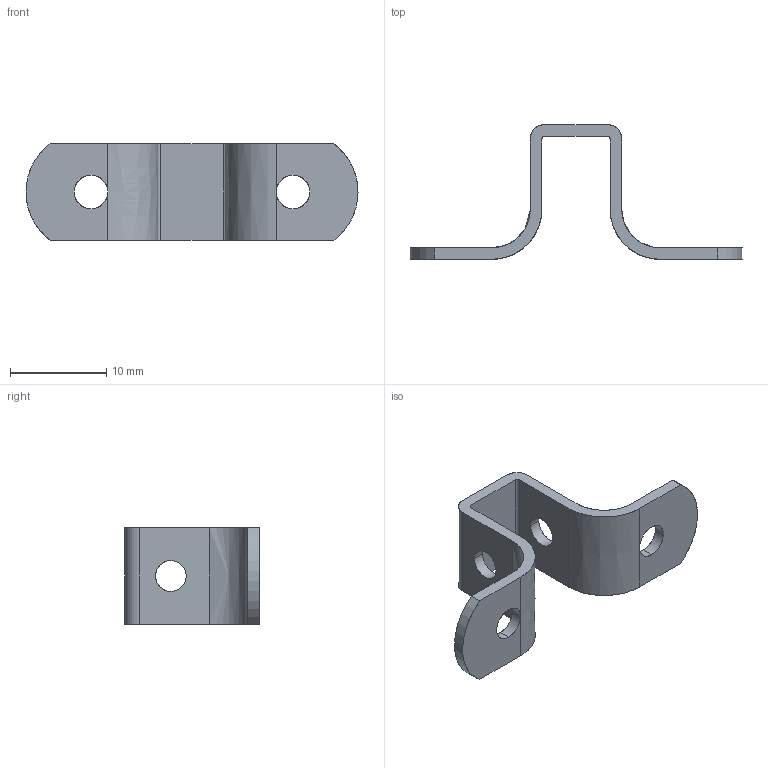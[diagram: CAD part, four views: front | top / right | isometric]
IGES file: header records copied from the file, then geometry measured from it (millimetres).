
Start section: SolidWorks IGES FILE using analytic representation for surfaces
Global section: file name: C:\WINNT\Profiles\cbrechard\Bureau\GE 571\534.020.00.IGS; native system: SolidWorks 2001Plus by SolidWorks Corporation; preprocessor: Version 5.3; author: CBRECHARD; date: 050125.141532; units: millimetre
Bounding box: 34.5 x 14 x 10 mm (x, y, z)
Surface area: 1206.1 mm2 (no closed solid volume)
Topology: 0 solids, 0 shells, 30 faces, 544 edges, 540 vertices
Faces by surface type: revolution 18, bspline 12
